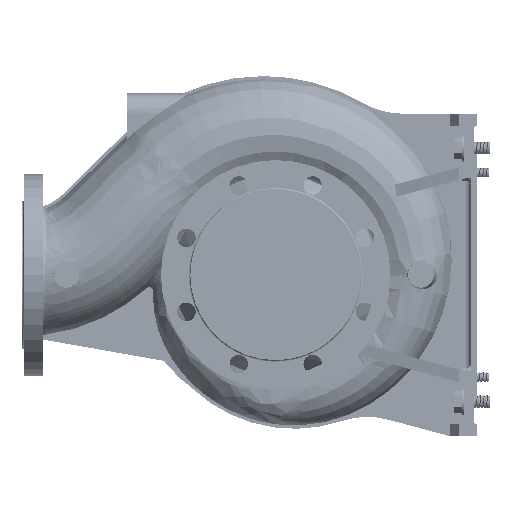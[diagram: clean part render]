
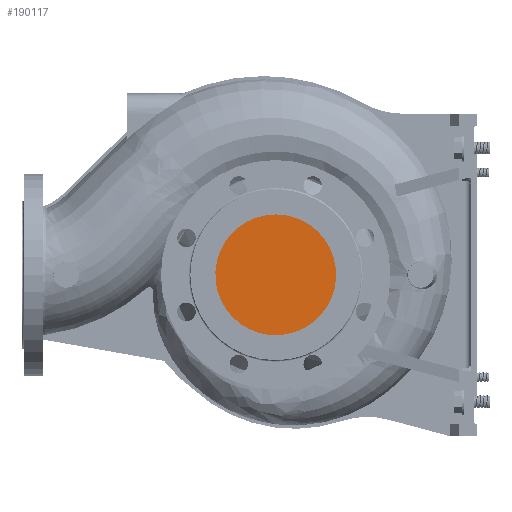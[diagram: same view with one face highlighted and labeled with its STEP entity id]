
A CAD part, left-side view. The second image highlights one B-rep face of the part: STEP entity #190117.
In plain terms, the highlighted planar face has unit normal (-1, 0, 0).
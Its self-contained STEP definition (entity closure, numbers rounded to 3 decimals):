
#4414 = CARTESIAN_POINT ( 'NONE',  ( -138., 28.886, 69.738 ) ) ;
#11780 = CARTESIAN_POINT ( 'NONE',  ( -138., 21.807, -71.886 ) ) ;
#13828 = CARTESIAN_POINT ( 'NONE',  ( -138., -41.936, 62.762 ) ) ;
#14260 = CARTESIAN_POINT ( 'NONE',  ( -138., 31.054, -68.578 ) ) ;
#15217 = CARTESIAN_POINT ( 'NONE',  ( -138., 0., 75. ) ) ;
#15498 = ORIENTED_EDGE ( 'NONE', *, *, #179225, .T. ) ;
#19835 = CARTESIAN_POINT ( 'NONE',  ( -138., 0., -75. ) ) ;
#26479 = ORIENTED_EDGE ( 'NONE', *, *, #89100, .T. ) ;
#46321 = CARTESIAN_POINT ( 'NONE',  ( -138., -7.364, -74.759 ) ) ;
#52954 = CARTESIAN_POINT ( 'NONE',  ( -138., 14.655, -73.677 ) ) ;
#56709 = DIRECTION ( 'NONE',  ( 0., 0., 1. ) ) ;
#57425 = CARTESIAN_POINT ( 'NONE',  ( -138., -14.726, 74.033 ) ) ;
#60609 = CARTESIAN_POINT ( 'NONE',  ( -138., 41.936, 62.762 ) ) ;
#62626 = EDGE_LOOP ( 'NONE', ( #26479, #15498 ) ) ;
#64263 = CARTESIAN_POINT ( 'NONE',  ( -138., 0., 75. ) ) ;
#66698 = CARTESIAN_POINT ( 'NONE',  ( -138., 66.25, -35.411 ) ) ;
#67965 = CARTESIAN_POINT ( 'NONE',  ( -138., 70.45, -26.534 ) ) ;
#68784 = CARTESIAN_POINT ( 'NONE',  ( -138., -31.054, -68.578 ) ) ;
#69218 = CARTESIAN_POINT ( 'NONE',  ( -138., 74.034, -14.724 ) ) ;
#74923 = CARTESIAN_POINT ( 'NONE',  ( -138., -4.909, 75. ) ) ;
#80570 = CARTESIAN_POINT ( 'NONE',  ( -138., 62.762, 41.936 ) ) ;
#85146 = B_SPLINE_CURVE_WITH_KNOTS ( 'NONE', 3,
 ( #141251, #203711, #46321, #162453, #201210, #68784, #202453, #107501, #241228, #91240, #169879, #112448, #114886, #147441, #188636, #128712, #132390, #148682, #13828, #227389, #57425, #74923, #92487 ),
 .UNSPECIFIED., .F., .F.,
 ( 4, 1, 1, 1, 1, 1, 1, 1, 1, 1, 1, 1, 1, 1, 1, 1, 1, 1, 1, 1, 4 ),
 ( 0., 0.007, 0.015, 0.022, 0.029, 0.044, 0.059, 0.066, 0.074, 0.081, 0.088, 0.103, 0.118, 0.133, 0.147, 0.162, 0.177, 0.191, 0.206, 0.221, 0.236 ),
 .UNSPECIFIED. ) ;
#89100 = EDGE_CURVE ( 'NONE', #218171, #113973, #85146, .T. ) ;
#91240 = CARTESIAN_POINT ( 'NONE',  ( -138., -62.461, -41.735 ) ) ;
#91527 = B_SPLINE_CURVE_WITH_KNOTS ( 'NONE', 3,
 ( #64263, #140468, #216702, #4414, #60609, #213026, #80570, #121719, #233027, #224134, #69218, #67965, #66698, #127916, #202900, #239168, #184161, #14260, #11780, #52954, #129138, #222894, #145390 ),
 .UNSPECIFIED., .F., .F.,
 ( 4, 1, 1, 1, 1, 1, 1, 1, 1, 1, 1, 1, 1, 1, 1, 1, 1, 1, 1, 1, 4 ),
 ( 0., 0.015, 0.029, 0.044, 0.059, 0.074, 0.088, 0.103, 0.118, 0.133, 0.147, 0.155, 0.162, 0.169, 0.177, 0.191, 0.206, 0.214, 0.221, 0.228, 0.236 ),
 .UNSPECIFIED. ) ;
#92487 = CARTESIAN_POINT ( 'NONE',  ( -138., 0., 75. ) ) ;
#107501 = CARTESIAN_POINT ( 'NONE',  ( -138., -51.474, -54.933 ) ) ;
#112448 = CARTESIAN_POINT ( 'NONE',  ( -138., -70.45, -26.534 ) ) ;
#113973 = VERTEX_POINT ( 'NONE', #15217 ) ;
#114886 = CARTESIAN_POINT ( 'NONE',  ( -138., -74.034, -14.724 ) ) ;
#121719 = CARTESIAN_POINT ( 'NONE',  ( -138., 69.738, 28.886 ) ) ;
#127916 = CARTESIAN_POINT ( 'NONE',  ( -138., 62.461, -41.735 ) ) ;
#128712 = CARTESIAN_POINT ( 'NONE',  ( -138., -69.738, 28.886 ) ) ;
#129138 = CARTESIAN_POINT ( 'NONE',  ( -138., 7.364, -74.759 ) ) ;
#129199 = PLANE ( 'NONE',  #237962 ) ;
#132390 = CARTESIAN_POINT ( 'NONE',  ( -138., -62.762, 41.936 ) ) ;
#132885 = DIRECTION ( 'NONE',  ( -1., 0., 0. ) ) ;
#140468 = CARTESIAN_POINT ( 'NONE',  ( -138., 4.909, 75. ) ) ;
#141251 = CARTESIAN_POINT ( 'NONE',  ( -138., 0., -75. ) ) ;
#145390 = CARTESIAN_POINT ( 'NONE',  ( -138., 0., -75. ) ) ;
#147441 = CARTESIAN_POINT ( 'NONE',  ( -138., -75.483, 0. ) ) ;
#147944 = FACE_OUTER_BOUND ( 'NONE', #62626, .T. ) ;
#148682 = CARTESIAN_POINT ( 'NONE',  ( -138., -53.375, 53.375 ) ) ;
#162453 = CARTESIAN_POINT ( 'NONE',  ( -138., -14.655, -73.677 ) ) ;
#169879 = CARTESIAN_POINT ( 'NONE',  ( -138., -66.25, -35.411 ) ) ;
#179225 = EDGE_CURVE ( 'NONE', #113973, #218171, #91527, .T. ) ;
#184161 = CARTESIAN_POINT ( 'NONE',  ( -138., 41.937, -62.763 ) ) ;
#188636 = CARTESIAN_POINT ( 'NONE',  ( -138., -74.033, 14.726 ) ) ;
#190117 = ADVANCED_FACE ( 'NONE', ( #147944 ), #129199, .T. ) ;
#201210 = CARTESIAN_POINT ( 'NONE',  ( -138., -21.807, -71.886 ) ) ;
#202453 = CARTESIAN_POINT ( 'NONE',  ( -138., -41.937, -62.763 ) ) ;
#202900 = CARTESIAN_POINT ( 'NONE',  ( -138., 58.069, -47.656 ) ) ;
#203711 = CARTESIAN_POINT ( 'NONE',  ( -138., -2.453, -75. ) ) ;
#205425 = CARTESIAN_POINT ( 'NONE',  ( -138., -76.373, -75.9 ) ) ;
#213026 = CARTESIAN_POINT ( 'NONE',  ( -138., 53.375, 53.375 ) ) ;
#216702 = CARTESIAN_POINT ( 'NONE',  ( -138., 14.726, 74.033 ) ) ;
#218171 = VERTEX_POINT ( 'NONE', #19835 ) ;
#222894 = CARTESIAN_POINT ( 'NONE',  ( -138., 2.453, -75. ) ) ;
#224134 = CARTESIAN_POINT ( 'NONE',  ( -138., 75.483, 0. ) ) ;
#227389 = CARTESIAN_POINT ( 'NONE',  ( -138., -28.886, 69.738 ) ) ;
#233027 = CARTESIAN_POINT ( 'NONE',  ( -138., 74.033, 14.726 ) ) ;
#237962 = AXIS2_PLACEMENT_3D ( 'NONE', #205425, #132885, #56709 ) ;
#239168 = CARTESIAN_POINT ( 'NONE',  ( -138., 51.474, -54.933 ) ) ;
#241228 = CARTESIAN_POINT ( 'NONE',  ( -138., -58.069, -47.656 ) ) ;
